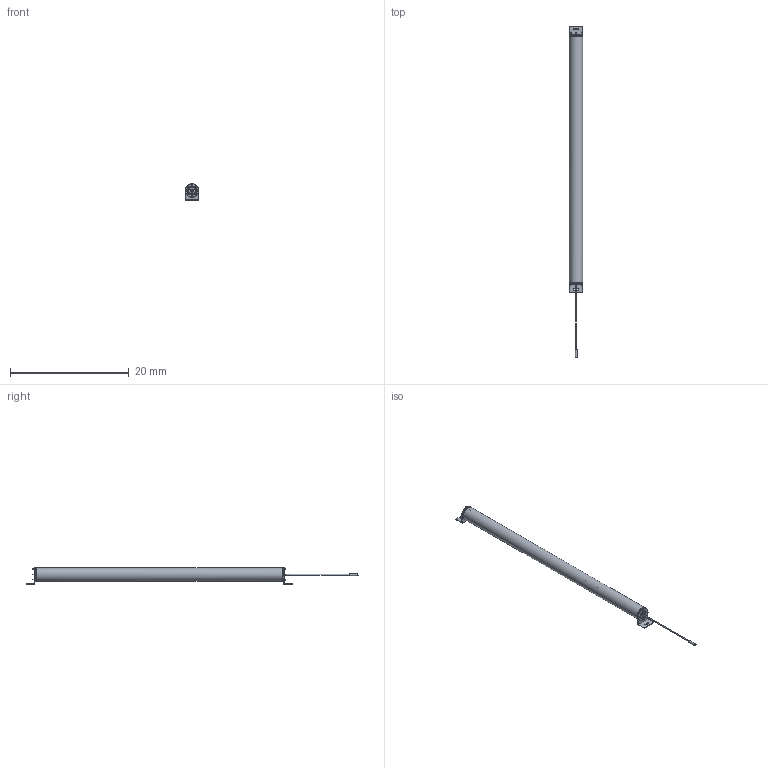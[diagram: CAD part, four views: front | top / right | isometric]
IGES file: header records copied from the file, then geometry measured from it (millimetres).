
Start section:  Autodesk DirectConnect version 7.0.27.0 ---- IGES version 5.3
Global section: file name: C:\ACADFILES\SS_PYLONS\CUSTOMER_FILES\SS-40-PYLON_3D_SMB_PT.iges; native system: Autodesk DirectConnect 7.0.27.0; preprocessor: 7.0.27.0; author: ENGINEERMAIN; organization: Unknown; date: 20150810.125217; units: millimetre
Bounding box: 2.26 x 56.01 x 2.75 mm (x, y, z)
Surface area: 1235.7 mm2 (no closed solid volume)
Topology: 0 solids, 0 shells, 772 faces, 3944 edges, 3944 vertices
Faces by surface type: bspline 772
